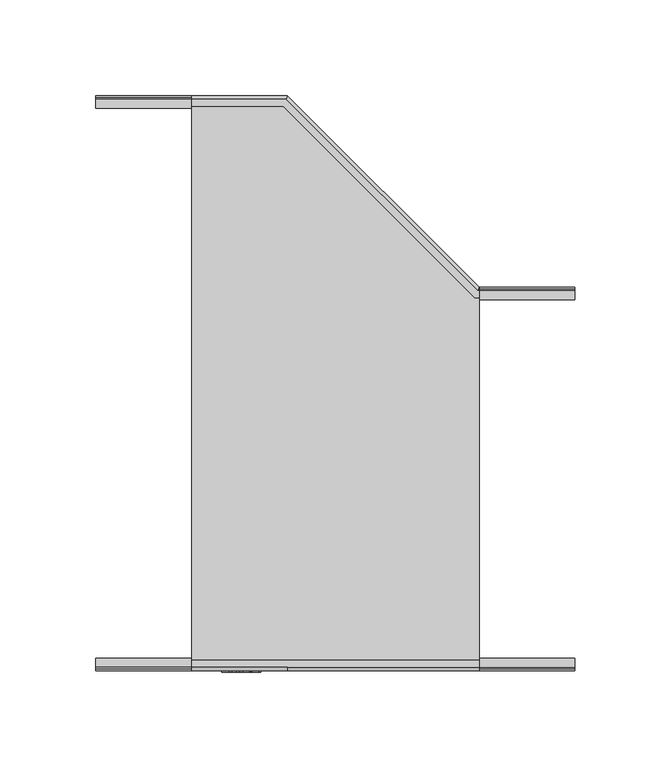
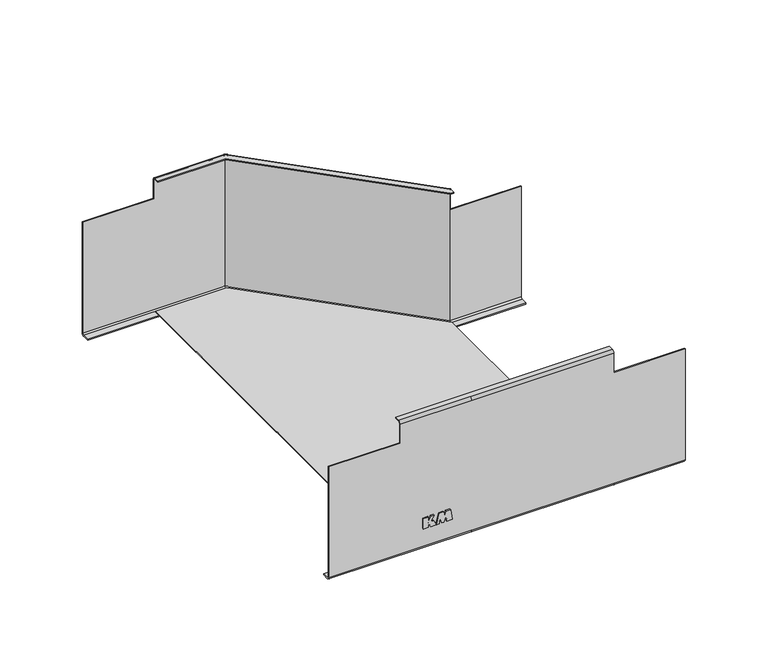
"""IFC4 building model written with IfcOpenShell, lengths in millimetres: cable carrier fitting geometry, КМ Профиль Переходник по ширине PD : Переходник по ширине PD."""

from ifc_helpers import new_model, si_unit, frame, origin, place, context, project, spatial, polyline, circle_curve, ellipse_curve, outline, extrude, source, transform, mapped, element, save
from ifc_brep_helpers import plane_surface, cylinder_surface, revolved_surface, advanced_brep


def cable_carrier_fitting_1c14abe9(model_context):
    return source(origin(), model_context, "Body", "SolidModel", [
        extrude(outline(polyline([(-26.986157, -34.2388781), (-34.737421, -34.2388781), (-34.737421, -30.6630512), (-31.5720802, -30.6630512), (-34.737421, -28.9588467), (-34.737421, -25.0604353), (-31.194034, -26.9277444), (-30.5086619, -29.1694955), (-26.986157, -26.703011), (-26.986157, -28.8289757), (-30.564509, -30.7316192), (-26.986157, -30.7316192), (-26.986157, -34.2388781)])), frame((0.0, -150.8, 0.0), z_axis=(0.0, 1.0, 0.0), x_axis=(0.0, 0.0, 1.0)), (0.0, 0.0, 1.0), 0.8),
        extrude(outline(polyline([(-34.737421, -22.9962759), (-30.0696135, -22.6126012), (-34.7434681, -21.2045824), (-34.7434681, -19.7300717), (-30.0541919, -18.2500032), (-34.7429915, -17.7725105), (-34.7429915, -13.8700699), (-26.9623682, -15.0615674), (-26.9623682, -18.2555223), (-30.0390232, -19.2768297), (-26.9647569, -20.0433304), (-26.9647569, -23.0740589), (-34.737421, -24.8943395), (-34.737421, -22.9962759)])), frame((0.0, -150.8, 0.0), z_axis=(0.0, 1.0, 0.0), x_axis=(0.0, 0.0, 1.0)), (0.0, 0.0, 1.0), 0.8),
        extrude(outline(polyline([(0.0, 147.4), (100.0, 47.4), (100.0, -147.4), (0.0, -147.4), (-50.0, -147.4), (-50.0, 147.4), (0.0, 147.4)])), frame((0.0, 0.0, -49.2), z_axis=(0.0, 0.0, 1.0), x_axis=(1.0, 0.0, 0.0)), (0.0, 0.0, 1.0), 0.8),
        advanced_brep(
        [(-100.0, -149.2, -48.2), (-100.0, -148.2, -49.2), (-100.0, -143.5, -49.2), (-100.0, -143.5, -50.0), (-100.0, -148.2, -50.0), (-100.0, -150.0, -48.2), (-100.0, -150.0, 34.0), (-100.0, -149.2, 34.0), (100.0, -148.2, 49.2), (0.0, -148.2, 49.2), (-50.0, -148.2, 49.2), (-50.0, -144.5, 49.2), (100.0, -144.5, 49.2), (0.0, -149.2, 48.2), (-50.0, -149.2, 48.2), (100.0, -149.2, 48.2), (100.0, -149.2, 34.0), (150.0, -149.2, 34.0), (150.0, -149.2, -48.2), (100.0, -149.2, -48.2), (0.0, -149.2, -48.2), (-50.0, -149.2, 34.0), (0.0, -148.2, -49.2), (100.0, -148.2, -49.2), (150.0, -148.2, -49.2), (150.0, -143.5, -49.2), (150.0, -143.5, -50.0), (150.0, -148.2, -50.0), (100.0, -148.2, -50.0), (0.0, -148.2, -50.0), (0.0, -150.0, -48.2), (100.0, -150.0, -48.2), (150.0, -150.0, -48.2), (150.0, -150.0, 34.0), (100.0, -150.0, 34.0), (100.0, -150.0, 48.2), (0.0, -150.0, 48.2), (-50.0, -150.0, 48.2), (-50.0, -150.0, 34.0), (0.0, -148.2, 50.0), (-50.0, -148.2, 50.0), (100.0, -148.2, 50.0), (100.0, -144.5, 50.0), (-50.0, -144.5, 50.0)],
        [
            (0, 1, circle_curve(frame((-100.0, -148.2, -48.2), z_axis=(1.0, 0.0, 0.0), x_axis=(0.0, 1.0, 0.0)), 1.0)),
            (1, 2),
            (2, 3),
            (3, 4),
            (4, 5, circle_curve(frame((-100.0, -148.2, -48.2), z_axis=(-1.0, 0.0, 0.0), x_axis=(0.0, 1.0, 0.0)), 1.8)),
            (5, 6),
            (6, 7),
            (7, 0),
            (8, 9),
            (9, 10),
            (10, 11),
            (11, 12),
            (12, 8),
            (9, 13, circle_curve(frame((0.0, -148.2, 48.2), z_axis=(1.0, 0.0, 0.0), x_axis=(0.0, 1.0, 0.0)), 1.0)),
            (13, 14),
            (14, 10, circle_curve(frame((-50.0, -148.2, 48.2), z_axis=(-1.0, 0.0, 0.0), x_axis=(0.0, 1.0, 0.0)), 1.0)),
            (13, 15),
            (15, 16),
            (16, 17),
            (17, 18),
            (18, 19),
            (19, 20),
            (20, 0),
            (7, 21),
            (21, 14),
            (20, 22, circle_curve(frame((0.0, -148.2, -48.2), z_axis=(1.0, 0.0, 0.0), x_axis=(0.0, 1.0, 0.0)), 1.0)),
            (22, 1),
            (22, 23),
            (23, 24),
            (24, 25),
            (25, 2),
            (25, 26),
            (26, 3),
            (26, 27),
            (27, 28),
            (28, 29),
            (29, 4),
            (29, 30, circle_curve(frame((0.0, -148.2, -48.2), z_axis=(-1.0, 0.0, 0.0), x_axis=(0.0, 1.0, 0.0)), 1.8)),
            (30, 5),
            (30, 31),
            (31, 32),
            (32, 33),
            (33, 34),
            (34, 35),
            (35, 36),
            (36, 37),
            (37, 38),
            (38, 6),
            (36, 39, circle_curve(frame((0.0, -148.2, 48.2), z_axis=(-1.0, 0.0, 0.0), x_axis=(0.0, 1.0, 0.0)), 1.8)),
            (39, 40),
            (40, 37, circle_curve(frame((-50.0, -148.2, 48.2), z_axis=(1.0, 0.0, 0.0), x_axis=(0.0, 1.0, 0.0)), 1.8)),
            (39, 41),
            (41, 42),
            (42, 43),
            (43, 40),
            (11, 43),
            (42, 12),
            (8, 15, circle_curve(frame((100.0, -148.2, 48.2), z_axis=(1.0, 0.0, 0.0), x_axis=(0.0, 1.0, 0.0)), 1.0)),
            (19, 23, circle_curve(frame((100.0, -148.2, -48.2), z_axis=(1.0, 0.0, 0.0), x_axis=(0.0, 1.0, 0.0)), 1.0)),
            (28, 31, circle_curve(frame((100.0, -148.2, -48.2), z_axis=(-1.0, 0.0, 0.0), x_axis=(0.0, 1.0, 0.0)), 1.8)),
            (35, 41, circle_curve(frame((100.0, -148.2, 48.2), z_axis=(-1.0, 0.0, 0.0), x_axis=(0.0, 1.0, 0.0)), 1.8)),
            (24, 18, circle_curve(frame((150.0, -148.2, -48.2), z_axis=(-1.0, 0.0, 0.0), x_axis=(0.0, 1.0, 0.0)), 1.0)),
            (17, 33),
            (32, 27, circle_curve(frame((150.0, -148.2, -48.2), z_axis=(1.0, 0.0, 0.0), x_axis=(0.0, 1.0, 0.0)), 1.8)),
            (38, 21),
            (34, 16),
        ],
        [
            plane_surface(frame((-100.0, -150.0, -200.0), z_axis=(-1.0, 0.0, 0.0), x_axis=(0.0, 0.0, 1.0))),
            plane_surface(frame((-100.0, -144.5, 49.2), z_axis=(0.0, 0.0, -1.0), x_axis=(1.0, 0.0, 0.0))),
            revolved_surface(polyline([(0.0, -147.2, 48.2), (-50.0, -147.2, 48.2)]), (-100.0, -148.2, 48.2), (1.0, 0.0, 0.0)),
            plane_surface(frame((-100.0, -149.2, 48.2), z_axis=(0.0, 1.0, 0.0), x_axis=(1.0, 0.0, 0.0))),
            revolved_surface(polyline([(0.0, -147.2, -48.2), (-100.0, -147.2, -48.2)]), (-100.0, -148.2, -48.2), (1.0, 0.0, 0.0)),
            plane_surface(frame((-100.0, -148.2, -49.2), z_axis=(0.0, 0.0, 1.0), x_axis=(1.0, 0.0, 0.0))),
            plane_surface(frame((-100.0, -143.5, -49.2), z_axis=(0.0, 1.0, 0.0), x_axis=(1.0, 0.0, 0.0))),
            plane_surface(frame((-100.0, -143.5, -50.0), z_axis=(0.0, 0.0, -1.0), x_axis=(1.0, 0.0, 0.0))),
            cylinder_surface(frame((-100.0, -148.2, -48.2), z_axis=(-1.0, 0.0, 0.0), x_axis=(0.0, 1.0, 0.0)), 1.8),
            plane_surface(frame((-100.0, -150.0, -48.2), z_axis=(0.0, -1.0, 0.0), x_axis=(1.0, 0.0, 0.0))),
            cylinder_surface(frame((-100.0, -148.2, 48.2), z_axis=(-1.0, 0.0, 0.0), x_axis=(0.0, 1.0, 0.0)), 1.8),
            plane_surface(frame((-100.0, -148.2, 50.0), z_axis=(0.0, 0.0, 1.0), x_axis=(1.0, 0.0, 0.0))),
            plane_surface(frame((-100.0, -144.5, 50.0), z_axis=(0.0, 1.0, 0.0), x_axis=(1.0, 0.0, 0.0))),
            revolved_surface(polyline([(100.0, -147.2, 48.2), (0.0, -147.2, 48.2)]), (0.0, -148.2, 48.2), (1.0, 0.0, 0.0)),
            revolved_surface(polyline([(100.0, -147.2, -48.2), (0.0, -147.2, -48.2)]), (0.0, -148.2, -48.2), (1.0, 0.0, 0.0)),
            cylinder_surface(frame((0.0, -148.2, -48.2), z_axis=(-1.0, 0.0, 0.0), x_axis=(0.0, 1.0, 0.0)), 1.8),
            cylinder_surface(frame((0.0, -148.2, 48.2), z_axis=(-1.0, 0.0, 0.0), x_axis=(0.0, 1.0, 0.0)), 1.8),
            plane_surface(frame((150.0, -150.0, -200.0), z_axis=(1.0, 0.0, 0.0), x_axis=(0.0, 0.0, 1.0))),
            revolved_surface(polyline([(150.0, -147.2, -48.2), (100.0, -147.2, -48.2)]), (100.0, -148.2, -48.2), (1.0, 0.0, 0.0)),
            cylinder_surface(frame((100.0, -148.2, -48.2), z_axis=(-1.0, 0.0, 0.0), x_axis=(0.0, 1.0, 0.0)), 1.8),
            plane_surface(frame((-100.0, -150.0, 34.0), z_axis=(0.0, 0.0, 1.0), x_axis=(0.0, 1.0, 0.0))),
            plane_surface(frame((-50.0, -150.0, 34.0), z_axis=(-1.0, 0.0, 0.0), x_axis=(0.0, 1.0, 0.0))),
            plane_surface(frame((100.0, -150.0, 50.0), z_axis=(1.0, 0.0, 0.0), x_axis=(0.0, 1.0, 0.0))),
            plane_surface(frame((100.0, -150.0, 34.0), z_axis=(0.0, 0.0, 1.0), x_axis=(0.0, 1.0, 0.0))),
        ],
        [
            (0, [[1, 2, 3, 4, 5, 6, 7, 8]]),
            (1, [[9, 10, 11, 12, 13]]),
            (2, [[14, 15, 16, -10]]),
            (3, [[17, 18, 19, 20, 21, 22, 23, -8, 24, 25, -15]]),
            (4, [[-1, -23, 26, 27]]),
            (5, [[-2, -27, 28, 29, 30, 31]]),
            (6, [[-3, -31, 32, 33]]),
            (7, [[-4, -33, 34, 35, 36, 37]]),
            (8, [[-5, -37, 38, 39]]),
            (9, [[-39, 40, 41, 42, 43, 44, 45, 46, 47, 48, -6]]),
            (10, [[49, 50, 51, -46]]),
            (11, [[52, 53, 54, 55, -50]]),
            (12, [[-12, 56, -54, 57]]),
            (13, [[-9, 58, -17, -14]]),
            (14, [[-22, 59, -28, -26]]),
            (15, [[-36, 60, -40, -38]]),
            (16, [[-45, 61, -52, -49]]),
            (17, [[-30, 62, -20, 63, -42, 64, -34, -32]]),
            (18, [[-21, -62, -29, -59]]),
            (19, [[-35, -64, -41, -60]]),
            (20, [[65, -24, -7, -48]]),
            (21, [[-65, -47, -51, -55, -56, -11, -16, -25]]),
            (22, [[66, -18, -58, -13, -57, -53, -61, -44]]),
            (23, [[-66, -43, -63, -19]]),
        ],
    ),
        advanced_brep(
        [(-100.0, 150.0, -48.2), (-100.0, 148.2, -50.0), (-100.0, 143.5, -50.0), (-100.0, 143.5, -49.2), (-100.0, 148.2, -49.2), (-100.0, 149.2, -48.2), (-100.0, 149.2, 34.0), (-100.0, 150.0, 34.0), (150.0, 49.2, -48.2), (150.0, 48.2, -49.2), (150.0, 43.5, -49.2), (150.0, 43.5, -50.0), (150.0, 48.2, -50.0), (150.0, 50.0, -48.2), (150.0, 50.0, 34.0), (150.0, 49.2, 34.0), (-2.2781746, 144.5, 49.2), (-2.2781746, 144.5, 50.0), (-50.0, 144.5, 50.0), (-50.0, 144.5, 49.2), (97.7218254, 44.5, 50.0), (100.0, 44.5, 50.0), (100.0, 48.2, 50.0), (99.2544156, 48.2, 50.0), (-0.7455844, 148.2, 50.0), (-50.0, 148.2, 50.0), (0.0, 150.0, 48.2), (-50.0, 150.0, 48.2), (0.0, 150.0, -48.2), (-50.0, 150.0, 34.0), (-0.7455844, 148.2, -50.0), (99.2544156, 48.2, -50.0), (97.3076118, 43.5, -50.0), (-2.6923882, 143.5, -50.0), (-2.6923882, 143.5, -49.2), (97.3076118, 43.5, -49.2), (99.2544156, 48.2, -49.2), (-0.7455844, 148.2, -49.2), (-0.3313708, 149.2, -48.2), (-0.3313708, 149.2, 48.2), (-50.0, 149.2, 48.2), (-50.0, 149.2, 34.0), (-0.7455844, 148.2, 49.2), (-50.0, 148.2, 49.2), (99.2544156, 48.2, 49.2), (100.0, 48.2, 49.2), (100.0, 44.5, 49.2), (97.7218254, 44.5, 49.2), (100.0, 50.0, 48.2), (100.0, 50.0, 34.0), (100.0, 50.0, -48.2), (99.6686292, 49.2, -48.2), (99.6686292, 49.2, 48.2), (100.0, 49.2, 34.0), (100.0, 49.2, 48.2)],
        [
            (0, 1, circle_curve(frame((-100.0, 148.2, -48.2), z_axis=(-1.0, 0.0, 0.0), x_axis=(0.0, 1.0, 0.0)), 1.8)),
            (1, 2),
            (2, 3),
            (3, 4),
            (4, 5, circle_curve(frame((-100.0, 148.2, -48.2), z_axis=(1.0, 0.0, 0.0), x_axis=(0.0, 1.0, 0.0)), 1.0)),
            (5, 6),
            (6, 7),
            (7, 0),
            (8, 9, circle_curve(frame((150.0, 48.2, -48.2), z_axis=(-1.0, 0.0, 0.0), x_axis=(0.0, 1.0, 0.0)), 1.0)),
            (9, 10),
            (10, 11),
            (11, 12),
            (12, 13, circle_curve(frame((150.0, 48.2, -48.2), z_axis=(1.0, 0.0, 0.0), x_axis=(0.0, 1.0, 0.0)), 1.8)),
            (13, 14),
            (14, 15),
            (15, 8),
            (16, 17),
            (17, 18),
            (18, 19),
            (19, 16),
            (17, 20),
            (20, 21),
            (21, 22),
            (22, 23),
            (23, 24),
            (24, 25),
            (25, 18),
            (24, 26, ellipse_curve(frame((-0.7455844, 148.2, 48.2), z_axis=(-0.9238795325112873, 0.3826834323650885, 0.0), x_axis=(-0.3826834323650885, -0.9238795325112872, 0.0)), 1.948306, 1.8)),
            (26, 27),
            (27, 25, circle_curve(frame((-50.0, 148.2, 48.2), z_axis=(1.0, 0.0, 0.0), x_axis=(0.0, 1.0, 0.0)), 1.8)),
            (26, 28),
            (28, 0),
            (7, 29),
            (29, 27),
            (28, 30, ellipse_curve(frame((-0.7455844, 148.2, -48.2), z_axis=(-0.9238795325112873, 0.3826834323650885, 0.0), x_axis=(-0.3826834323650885, -0.9238795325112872, 0.0)), 1.948306, 1.8)),
            (30, 1),
            (30, 31),
            (31, 12),
            (11, 32),
            (32, 33),
            (33, 2),
            (33, 34),
            (34, 3),
            (34, 35),
            (35, 10),
            (9, 36),
            (36, 37),
            (37, 4),
            (37, 38, ellipse_curve(frame((-0.7455844, 148.2, -48.2), z_axis=(0.9238795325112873, -0.3826834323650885, 0.0), x_axis=(0.3826834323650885, 0.9238795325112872, 0.0)), 1.0823922, 1.0)),
            (38, 5),
            (38, 39),
            (39, 40),
            (40, 41),
            (41, 6),
            (39, 42, ellipse_curve(frame((-0.7455844, 148.2, 48.2), z_axis=(0.9238795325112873, -0.3826834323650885, 0.0), x_axis=(0.3826834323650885, 0.9238795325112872, 0.0)), 1.0823922, 1.0)),
            (42, 43),
            (43, 40, circle_curve(frame((-50.0, 148.2, 48.2), z_axis=(-1.0, 0.0, 0.0), x_axis=(0.0, 1.0, 0.0)), 1.0)),
            (42, 44),
            (44, 45),
            (45, 46),
            (46, 47),
            (47, 16),
            (19, 43),
            (47, 20),
            (23, 48, ellipse_curve(frame((99.2544156, 48.2, 48.2), z_axis=(-0.9238795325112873, 0.3826834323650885, 0.0), x_axis=(0.3826834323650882, 0.9238795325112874, 0.0)), 1.948306, 1.8)),
            (48, 26),
            (48, 49),
            (49, 50),
            (50, 28),
            (50, 31, ellipse_curve(frame((99.2544156, 48.2, -48.2), z_axis=(-0.9238795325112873, 0.3826834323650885, 0.0), x_axis=(0.3826834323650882, 0.9238795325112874, 0.0)), 1.948306, 1.8)),
            (32, 35),
            (36, 51, ellipse_curve(frame((99.2544156, 48.2, -48.2), z_axis=(0.9238795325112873, -0.3826834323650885, 0.0), x_axis=(-0.3826834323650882, -0.9238795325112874, 0.0)), 1.0823922, 1.0)),
            (51, 38),
            (51, 52),
            (52, 39),
            (52, 44, ellipse_curve(frame((99.2544156, 48.2, 48.2), z_axis=(0.9238795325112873, -0.3826834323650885, 0.0), x_axis=(-0.3826834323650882, -0.9238795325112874, 0.0)), 1.0823922, 1.0)),
            (46, 21),
            (22, 48, circle_curve(frame((100.0, 48.2, 48.2), z_axis=(-1.0, 0.0, 0.0), x_axis=(0.0, 1.0, 0.0)), 1.8)),
            (13, 50),
            (49, 14),
            (8, 51),
            (15, 53),
            (53, 54),
            (54, 52),
            (54, 45, circle_curve(frame((100.0, 48.2, 48.2), z_axis=(1.0, 0.0, 0.0), x_axis=(0.0, 1.0, 0.0)), 1.0)),
            (41, 29),
            (53, 49),
        ],
        [
            plane_surface(frame((-100.0, 150.0, 0.0), z_axis=(-1.0, 0.0, 0.0), x_axis=(0.0, 0.0, 1.0))),
            plane_surface(frame((150.0, 50.0, 0.0), z_axis=(1.0, 0.0, 0.0), x_axis=(0.0, 0.0, 1.0))),
            plane_surface(frame((-100.0, 144.5, 49.2), z_axis=(0.0, -1.0, 0.0), x_axis=(1.0, 0.0, 0.0))),
            plane_surface(frame((-100.0, 144.5, 50.0), z_axis=(0.0, 0.0, 1.0), x_axis=(1.0, 0.0, 0.0))),
            cylinder_surface(frame((-100.0, 148.2, 48.2), z_axis=(-1.0, 0.0, 0.0), x_axis=(0.0, 1.0, 0.0)), 1.8),
            plane_surface(frame((-100.0, 150.0, 48.2), z_axis=(0.0, 1.0, 0.0), x_axis=(1.0, 0.0, 0.0))),
            cylinder_surface(frame((-100.0, 148.2, -48.2), z_axis=(-1.0, 0.0, 0.0), x_axis=(0.0, 1.0, 0.0)), 1.8),
            plane_surface(frame((-100.0, 148.2, -50.0), z_axis=(0.0, 0.0, -1.0), x_axis=(1.0, 0.0, 0.0))),
            plane_surface(frame((-100.0, 143.5, -50.0), z_axis=(0.0, -1.0, 0.0), x_axis=(1.0, 0.0, 0.0))),
            plane_surface(frame((-100.0, 143.5, -49.2), z_axis=(0.0, 0.0, 1.0), x_axis=(1.0, 0.0, 0.0))),
            revolved_surface(polyline([(-0.33137080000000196, 149.2, -48.2), (-100.0, 149.2, -48.2)]), (-100.0, 148.2, -48.2), (1.0, 0.0, 0.0)),
            plane_surface(frame((-100.0, 149.2, -48.2), z_axis=(0.0, -1.0, 0.0), x_axis=(1.0, 0.0, 0.0))),
            revolved_surface(polyline([(-0.33137080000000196, 149.2, 48.2), (-50.0, 149.2, 48.2)]), (-100.0, 148.2, 48.2), (1.0, 0.0, 0.0)),
            plane_surface(frame((-100.0, 148.2, 49.2), z_axis=(0.0, 0.0, -1.0), x_axis=(1.0, 0.0, 0.0))),
            plane_surface(frame((-2.2781746, 144.5, 49.2), z_axis=(-0.7071067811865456, -0.7071067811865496, 0.0), x_axis=(0.7071067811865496, -0.7071067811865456, 0.0))),
            cylinder_surface(frame((-1.2727922, 148.7272078, 48.2), z_axis=(-0.7071067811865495, 0.7071067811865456, 0.0), x_axis=(0.7071067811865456, 0.7071067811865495, 0.0)), 1.8),
            plane_surface(frame((0.0, 150.0, 48.2), z_axis=(0.7071067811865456, 0.7071067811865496, 0.0), x_axis=(0.7071067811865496, -0.7071067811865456, 0.0))),
            cylinder_surface(frame((-1.2727922, 148.7272078, -48.2), z_axis=(-0.7071067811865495, 0.7071067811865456, 0.0), x_axis=(0.7071067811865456, 0.7071067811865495, 0.0)), 1.8),
            plane_surface(frame((-2.6923882, 143.5, -50.0), z_axis=(-0.7071067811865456, -0.7071067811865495, 0.0), x_axis=(0.7071067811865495, -0.7071067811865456, 0.0))),
            revolved_surface(polyline([(100.25441559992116, 48.61421356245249, -48.2), (-0.33137083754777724, 149.1999999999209, -48.2)]), (-1.2727922, 148.7272078, -48.2), (0.7071067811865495, -0.7071067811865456, 0.0)),
            plane_surface(frame((-0.3313708, 149.2, -48.2), z_axis=(-0.7071067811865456, -0.7071067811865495, 0.0), x_axis=(0.7071067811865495, -0.7071067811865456, 0.0))),
            revolved_surface(polyline([(100.25441559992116, 48.61421356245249, 48.2), (-0.33137083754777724, 149.1999999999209, 48.2)]), (-1.2727922, 148.7272078, 48.2), (0.7071067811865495, -0.7071067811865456, 0.0)),
            plane_surface(frame((97.7218254, 44.5, 49.2), z_axis=(0.0, -1.0, 0.0), x_axis=(1.0, 0.0, 0.0))),
            cylinder_surface(frame((100.0, 48.2, 48.2), z_axis=(-1.0, 0.0, 0.0), x_axis=(0.0, 1.0, 0.0)), 1.8),
            plane_surface(frame((100.0, 50.0, 48.2), z_axis=(0.0, 1.0, 0.0), x_axis=(1.0, 0.0, 0.0))),
            cylinder_surface(frame((100.0, 48.2, -48.2), z_axis=(-1.0, 0.0, 0.0), x_axis=(0.0, 1.0, 0.0)), 1.8),
            plane_surface(frame((97.3076118, 43.5, -50.0), z_axis=(0.0, -1.0, 0.0), x_axis=(1.0, 0.0, 0.0))),
            revolved_surface(polyline([(150.0, 49.2, -48.2), (98.8402020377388, 49.2, -48.2)]), (100.0, 48.2, -48.2), (1.0, 0.0, 0.0)),
            plane_surface(frame((99.6686292, 49.2, -48.2), z_axis=(0.0, -1.0, 0.0), x_axis=(1.0, 0.0, 0.0))),
            revolved_surface(polyline([(100.0, 49.2, 48.2), (98.8402020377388, 49.2, 48.2)]), (100.0, 48.2, 48.2), (1.0, 0.0, 0.0)),
            plane_surface(frame((-100.0, -150.0, 34.0), z_axis=(0.0, 0.0, 1.0), x_axis=(0.0, 1.0, 0.0))),
            plane_surface(frame((-50.0, -150.0, 34.0), z_axis=(-1.0, 0.0, 0.0), x_axis=(0.0, 1.0, 0.0))),
            plane_surface(frame((100.0, -150.0, 50.0), z_axis=(1.0, 0.0, 0.0), x_axis=(0.0, 1.0, 0.0))),
            plane_surface(frame((100.0, -150.0, 34.0), z_axis=(0.0, 0.0, 1.0), x_axis=(0.0, 1.0, 0.0))),
        ],
        [
            (0, [[1, 2, 3, 4, 5, 6, 7, 8]]),
            (1, [[9, 10, 11, 12, 13, 14, 15, 16]]),
            (2, [[17, 18, 19, 20]]),
            (3, [[21, 22, 23, 24, 25, 26, 27, -18]]),
            (4, [[28, 29, 30, -26]]),
            (5, [[31, 32, -8, 33, 34, -29]]),
            (6, [[-1, -32, 35, 36]]),
            (7, [[-2, -36, 37, 38, -12, 39, 40, 41]]),
            (8, [[-3, -41, 42, 43]]),
            (9, [[-4, -43, 44, 45, -10, 46, 47, 48]]),
            (10, [[-5, -48, 49, 50]]),
            (11, [[-50, 51, 52, 53, 54, -6]]),
            (12, [[55, 56, 57, -52]]),
            (13, [[58, 59, 60, 61, 62, -20, 63, -56]]),
            (14, [[-17, -62, 64, -21]]),
            (15, [[-25, 65, 66, -28]]),
            (16, [[-31, -66, 67, 68, 69]]),
            (17, [[-35, -69, 70, -37]]),
            (18, [[-40, 71, -44, -42]]),
            (19, [[-47, 72, 73, -49]]),
            (20, [[-51, -73, 74, 75]]),
            (21, [[-55, -75, 76, -58]]),
            (22, [[-64, -61, 77, -22]]),
            (23, [[-65, -24, 78]]),
            (24, [[79, -68, 80, -14]]),
            (25, [[-13, -38, -70, -79]]),
            (26, [[-11, -45, -71, -39]]),
            (27, [[-9, 81, -72, -46]]),
            (28, [[-74, -81, -16, 82, 83, 84]]),
            (29, [[-76, -84, 85, -59]]),
            (30, [[86, -33, -7, -54]]),
            (31, [[-86, -53, -57, -63, -19, -27, -30, -34]]),
            (32, [[87, -67, -78, -23, -77, -60, -85, -83]]),
            (33, [[-87, -82, -15, -80]]),
        ],
    ),
    ])


if __name__ == "__main__":
    model = new_model("IFC4")
    model_context = context("Model", 3, world=origin())
    ifc_project = project(units=[si_unit("LENGTHUNIT", "METRE", prefix="MILLI")], contexts=[model_context])
    site = spatial("IfcSite", under=ifc_project)
    building = spatial("IfcBuilding", under=site)
    placement = place(None, origin())
    cable_carrier_fitting_shape = cable_carrier_fitting_1c14abe9(model_context)
    element("IfcCableCarrierFitting", 1, ObjectType="КМ Профиль Переходник по ширине PD : Переходник по ширине PD", at=placement, inside=building, context=model_context, shape_type="MappedRepresentation", body=[
        mapped(cable_carrier_fitting_shape, transform((0.0, 0.0, 0.0), x_axis=(1.0, 0.0, 0.0), y_axis=(0.0, 1.0, 0.0), z_axis=(0.0, 0.0, 1.0))),
    ])
    save(model, "model.ifc")
